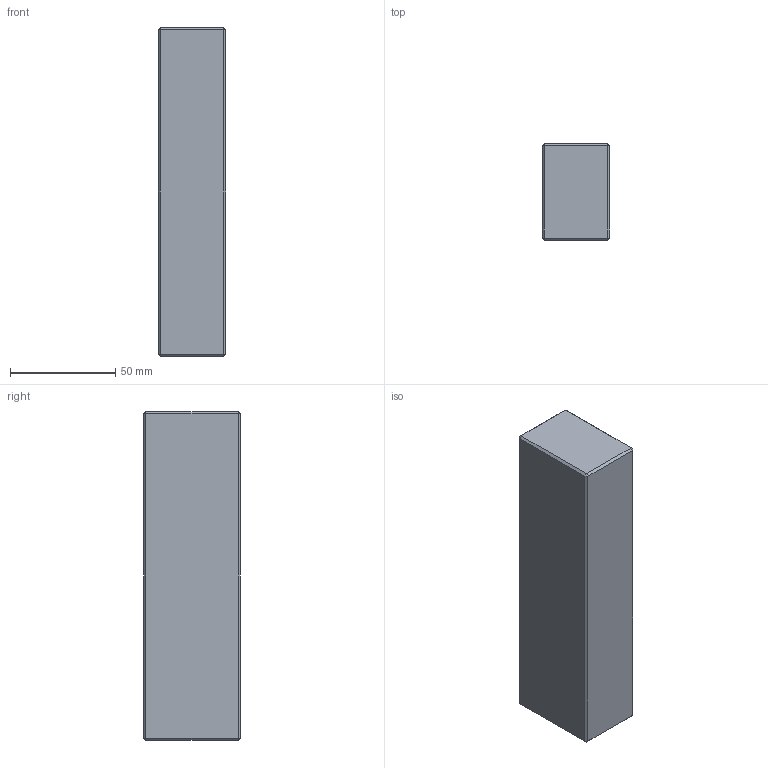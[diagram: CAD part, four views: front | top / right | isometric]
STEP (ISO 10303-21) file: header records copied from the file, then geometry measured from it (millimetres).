
FILE_DESCRIPTION (( 'STEP AP214' ), '1' );
FILE_NAME ('ESP-P-156X156x46.STEP', '2020-04-08T10:09:42', ( 'August' ), ( '' ), 'SwSTEP 2.0', 'SolidWorks 2018', '' );
FILE_SCHEMA (( 'AUTOMOTIVE_DESIGN' ));
Length unit declared in the file: millimetre
Products named in the file (1): ESP-P-156X156x46
Bounding box: 32 x 46 x 156 mm (x, y, z)
Volume: 229169.3 mm3; surface area: 26728.7 mm2
Topology: 1 solids, 1 shells, 26 faces, 48 edges, 24 vertices
Faces by surface type: plane 26
Entity records: 634 total; most frequent: DIRECTION 102, CARTESIAN_POINT 99, ORIENTED_EDGE 96, LINE 48, EDGE_CURVE 48, VECTOR 48, AXIS2_PLACEMENT_3D 27, FACE_OUTER_BOUND 26
